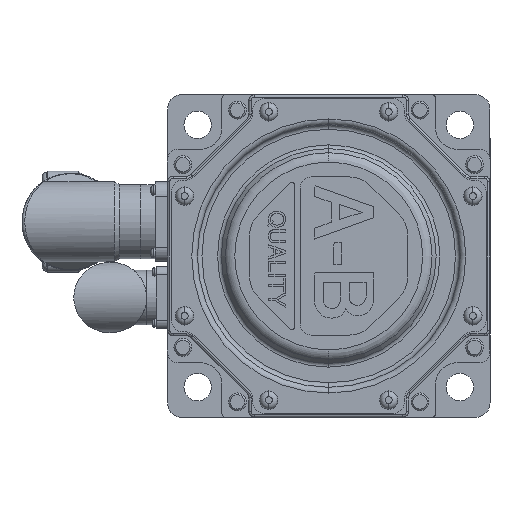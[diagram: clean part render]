
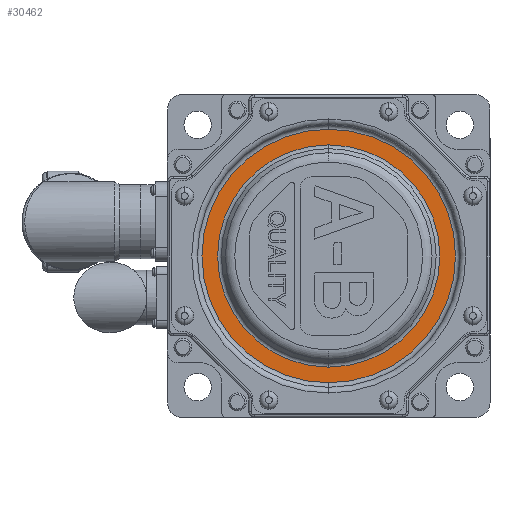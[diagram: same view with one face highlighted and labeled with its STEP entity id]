
A CAD part, left-side view. The second image highlights one B-rep face of the part: STEP entity #30462.
In plain terms, the highlighted planar face has unit normal (-1, 0, 0).
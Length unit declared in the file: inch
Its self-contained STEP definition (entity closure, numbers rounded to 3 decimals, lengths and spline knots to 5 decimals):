
#1388 = FACE_BOUND ( 'NONE', #18022, .T. ) ;
#2251 = FACE_OUTER_BOUND ( 'NONE', #20800, .T. ) ;
#2406 = DIRECTION ( 'NONE',  ( 1., 0., 0. ) ) ;
#2865 = DIRECTION ( 'NONE',  ( 0., 0., -1. ) ) ;
#3144 = AXIS2_PLACEMENT_3D ( 'NONE', #14059, #19689, #2865 ) ;
#3749 = AXIS2_PLACEMENT_3D ( 'NONE', #19232, #2406, #22081 ) ;
#4249 = CIRCLE ( 'NONE', #6989, 2.221 ) ;
#5515 = DIRECTION ( 'NONE',  ( 1., 0., 0. ) ) ;
#5886 = CARTESIAN_POINT ( 'NONE',  ( -8.618, 0., 1.94657 ) ) ;
#6989 = AXIS2_PLACEMENT_3D ( 'NONE', #9187, #28879, #12017 ) ;
#7128 = CARTESIAN_POINT ( 'NONE',  ( -8.618, 0., 2.221 ) ) ;
#7565 = DIRECTION ( 'NONE',  ( -1., 0., 0. ) ) ;
#8040 = EDGE_CURVE ( 'NONE', #33571, #15460, #9121, .T. ) ;
#8414 = PLANE ( 'NONE',  #3144 ) ;
#9121 = CIRCLE ( 'NONE', #21084, 2.221 ) ;
#9187 = CARTESIAN_POINT ( 'NONE',  ( -8.618, 0., 0. ) ) ;
#12017 = DIRECTION ( 'NONE',  ( 0., 0., -1. ) ) ;
#14038 = EDGE_CURVE ( 'NONE', #15460, #33571, #4249, .T. ) ;
#14059 = CARTESIAN_POINT ( 'NONE',  ( -8.618, 1.90545, 0. ) ) ;
#14267 = VERTEX_POINT ( 'NONE', #5886 ) ;
#15460 = VERTEX_POINT ( 'NONE', #7128 ) ;
#17318 = CARTESIAN_POINT ( 'NONE',  ( -8.618, 0., -2.221 ) ) ;
#18022 = EDGE_LOOP ( 'NONE', ( #27486, #30225 ) ) ;
#19232 = CARTESIAN_POINT ( 'NONE',  ( -8.618, 0., 0. ) ) ;
#19689 = DIRECTION ( 'NONE',  ( 1., 0., 0. ) ) ;
#20800 = EDGE_LOOP ( 'NONE', ( #23201, #34259 ) ) ;
#21084 = AXIS2_PLACEMENT_3D ( 'NONE', #24364, #7565, #27218 ) ;
#22081 = DIRECTION ( 'NONE',  ( 0., 0., -1. ) ) ;
#22362 = CARTESIAN_POINT ( 'NONE',  ( -8.618, 0., 0. ) ) ;
#23201 = ORIENTED_EDGE ( 'NONE', *, *, #8040, .T. ) ;
#24364 = CARTESIAN_POINT ( 'NONE',  ( -8.618, 0., 0. ) ) ;
#25164 = DIRECTION ( 'NONE',  ( 0., 0., -1. ) ) ;
#26495 = EDGE_CURVE ( 'NONE', #27629, #14267, #32836, .T. ) ;
#27218 = DIRECTION ( 'NONE',  ( 0., 0., -1. ) ) ;
#27486 = ORIENTED_EDGE ( 'NONE', *, *, #26495, .T. ) ;
#27629 = VERTEX_POINT ( 'NONE', #28660 ) ;
#28660 = CARTESIAN_POINT ( 'NONE',  ( -8.618, 0., -1.94657 ) ) ;
#28879 = DIRECTION ( 'NONE',  ( -1., 0., 0. ) ) ;
#30225 = ORIENTED_EDGE ( 'NONE', *, *, #35099, .T. ) ;
#30462 = ADVANCED_FACE ( 'NONE', ( #2251, #1388 ), #8414, .F. ) ;
#32434 = AXIS2_PLACEMENT_3D ( 'NONE', #22362, #5515, #25164 ) ;
#32836 = CIRCLE ( 'NONE', #3749, 1.94657 ) ;
#33571 = VERTEX_POINT ( 'NONE', #17318 ) ;
#34259 = ORIENTED_EDGE ( 'NONE', *, *, #14038, .T. ) ;
#35099 = EDGE_CURVE ( 'NONE', #14267, #27629, #35660, .T. ) ;
#35660 = CIRCLE ( 'NONE', #32434, 1.94657 ) ;
